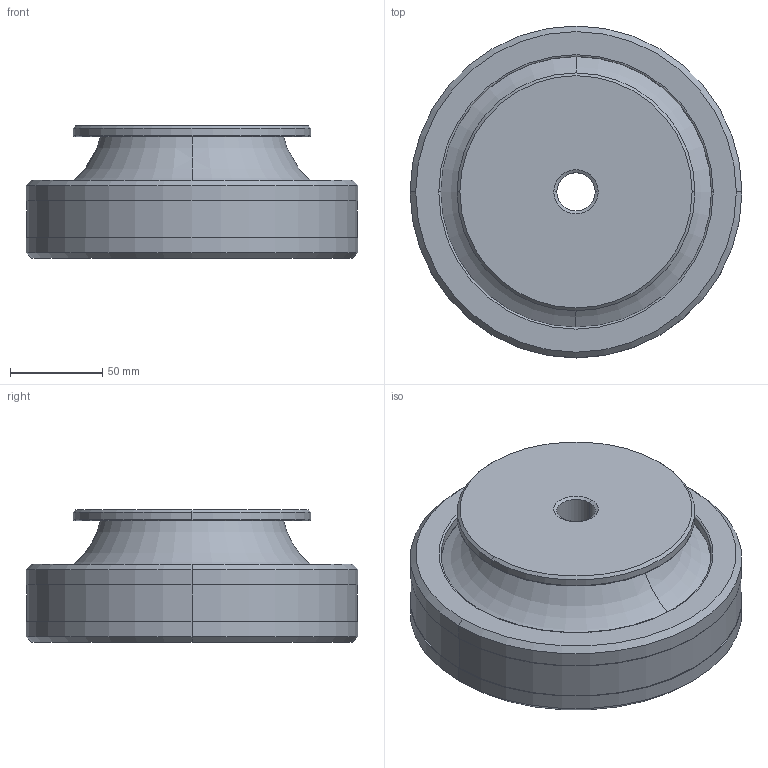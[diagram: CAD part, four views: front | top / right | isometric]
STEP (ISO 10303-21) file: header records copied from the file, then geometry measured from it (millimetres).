
FILE_DESCRIPTION(('STEP AP214'),'1');
FILE_NAME('U:/Inhalte (Daten)/Content neue Seite/CAD Files/EluFlex_180_SB.stp','2014-08-27T14:35:41',(' '),(' '),'Spatial InterOp 3D',' ',' ');
FILE_SCHEMA(('automotive_design'));
Length unit declared in the file: millimetre
Products named in the file (1): 1
Bounding box: 180 x 180 x 72 mm (x, y, z)
Volume: 1133067.8 mm3; surface area: 108336.6 mm2
Topology: 1 solids, 1 shells, 50 faces, 114 edges, 72 vertices
Faces by surface type: cylinder 16, torus 14, cone 12, plane 8
Entity records: 1467 total; most frequent: DIRECTION 302, CARTESIAN_POINT 237, ORIENTED_EDGE 228, AXIS2_PLACEMENT_3D 137, EDGE_CURVE 114, CIRCLE 86, VERTEX_POINT 72, EDGE_LOOP 58
